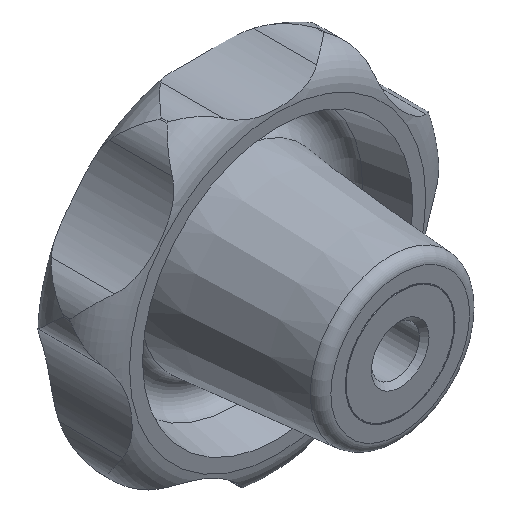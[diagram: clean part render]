
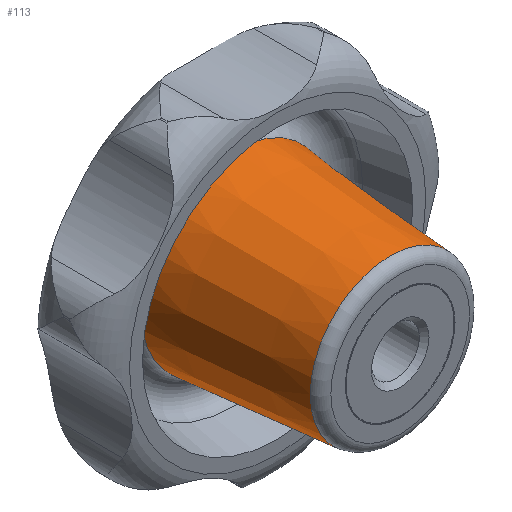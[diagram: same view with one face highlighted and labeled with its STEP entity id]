
A CAD part, isometric view. The second image highlights one B-rep face of the part: STEP entity #113.
In plain terms, the highlighted conical face has half-angle 5 degrees and reference radius 13 mm.
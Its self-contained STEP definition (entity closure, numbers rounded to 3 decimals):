
#113 = ADVANCED_FACE( '', ( #209, #210 ), #211, .T. );
#209 = FACE_BOUND( '', #313, .T. );
#210 = FACE_OUTER_BOUND( '', #314, .T. );
#211 = CONICAL_SURFACE( '', #315, 13., 0.087 );
#313 = EDGE_LOOP( '', ( #622 ) );
#314 = EDGE_LOOP( '', ( #623 ) );
#315 = AXIS2_PLACEMENT_3D( '', #624, #625, #626 );
#622 = ORIENTED_EDGE( '', *, *, #755, .F. );
#623 = ORIENTED_EDGE( '', *, *, #756, .T. );
#624 = CARTESIAN_POINT( '', ( 0., 22.921, 0. ) );
#625 = DIRECTION( '', ( 0., 1., 0. ) );
#626 = DIRECTION( '', ( 0., 0., 1. ) );
#755 = EDGE_CURVE( '', #920, #920, #921, .T. );
#756 = EDGE_CURVE( '', #922, #922, #923, .T. );
#920 = VERTEX_POINT( '', #1928 );
#921 = CIRCLE( '', #1929, 11.114 );
#922 = VERTEX_POINT( '', #1930 );
#923 = CIRCLE( '', #1931, 13. );
#1928 = CARTESIAN_POINT( '', ( 0., 1.369, -11.114 ) );
#1929 = AXIS2_PLACEMENT_3D( '', #2037, #2038, #2039 );
#1930 = CARTESIAN_POINT( '', ( 0., 22.921, -13. ) );
#1931 = AXIS2_PLACEMENT_3D( '', #2040, #2041, #2042 );
#2037 = CARTESIAN_POINT( '', ( 0., 1.369, 0. ) );
#2038 = DIRECTION( '', ( 0., -1., 0. ) );
#2039 = DIRECTION( '', ( 0., 0., -1. ) );
#2040 = CARTESIAN_POINT( '', ( 0., 22.921, 0. ) );
#2041 = DIRECTION( '', ( 0., -1., 0. ) );
#2042 = DIRECTION( '', ( 0., 0., -1. ) );
